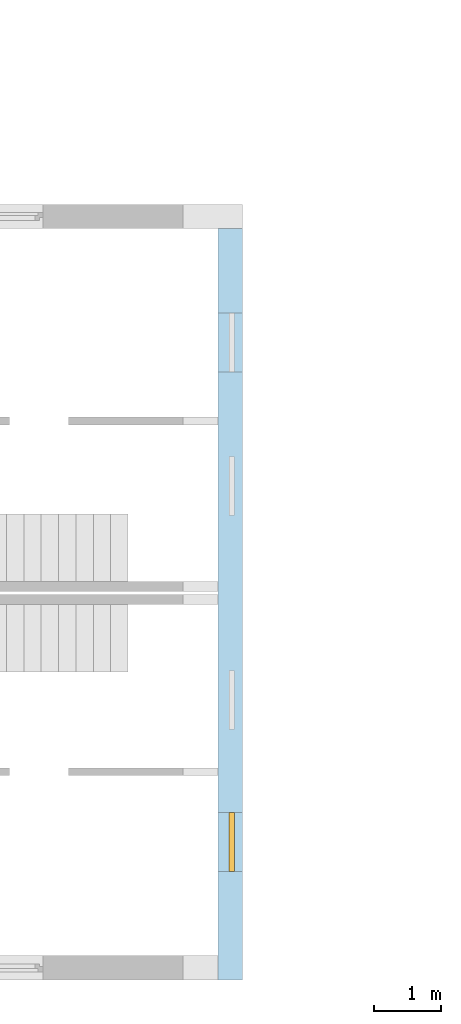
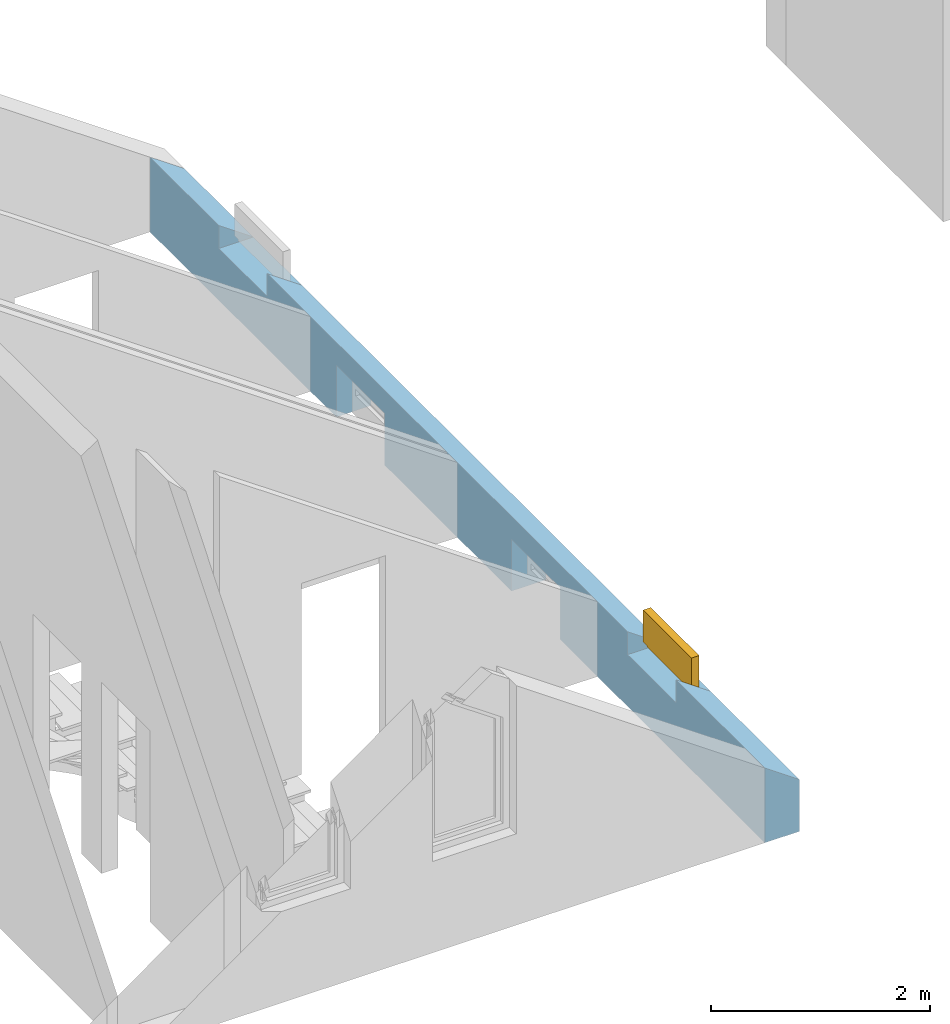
# One storey, part 9 of 23: 1 window, 4 openings, plus 1 element that does not belong to this part.
"""IFC2X3 building model written with IfcOpenShell, lengths in millimetres."""

from ifc_helpers import new_model, entity, si_unit, converted_unit, frame, frame_2d, origin, origin_with_axes, place, context, subcontext, project, spatial, rectangle, extrude, clip, halfspace, faceted_brep, material, layer, layer_set, layer_usage, type_object, element, fill, save


model = new_model("IFC2X3")

# Units and contexts
model_context = context("Model", 3, precision=1e-05, world=origin())
body_context = subcontext(model_context, "Body", "Model", "MODEL_VIEW")
ifc_project = project(units=[si_unit("LENGTHUNIT", "METRE", prefix="MILLI"), converted_unit("PLANEANGLEUNIT", "DEGREE", entity("IfcPlaneAngleMeasure", 0.0174532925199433), si_unit("PLANEANGLEUNIT", "RADIAN"), dimensions=[0, 0, 0, 0, 0, 0, 0]), si_unit("AREAUNIT", "SQUARE_METRE"), si_unit("VOLUMEUNIT", "CUBIC_METRE")], contexts=[model_context])

# Building, storey
building_placement = place(None, origin())
building = spatial("IfcBuilding", under=ifc_project, at=building_placement, Name="Gebäude", CompositionType="ELEMENT")
storey_placement = place(building_placement, frame((0.0, 0.0, 5580.0), z_axis=(0.0, 0.0, 1.0), x_axis=(1.0, 0.0, 0.0)))
storey = spatial("IfcBuildingStorey", under=building, at=storey_placement, Name="DG.- Grundriss", CompositionType="ELEMENT", Elevation=5580.0)

# Wall, openings, window
ifc_material_1 = material(Name="Poroton")
ifc_layer = layer(ifc_material_1, 365.0000000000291)
ifc_layer_set = layer_set([ifc_layer])
ifc_layer_usage = layer_usage(ifc_layer_set, "AXIS2", "POSITIVE", 0.0)
wall_placement = place(storey_placement, frame((142357.7928067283, 125274.8877321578, 0.0), z_axis=(0.0, 0.0, 1.0), x_axis=(0.0, 1.0, 0.0)))
wall = element("IfcWallStandardCase", 1, at=wall_placement, inside=storey, material=ifc_layer_usage, Name="<Unnamed Element>", context=body_context, shape_type="Clipping", body=[
    clip(extrude(rectangle(XDim=11250.00000031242, YDim=365.0000000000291, at=frame_2d((5625.000000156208, 182.5000000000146), x_axis=(1.0, 0.0))), origin_with_axes(), (0.0, 0.0, 1.0), 835.5757514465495), halfspace(frame((11250.00000031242, 365.0000000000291, 835.5757514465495), z_axis=(3.642746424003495e-16, 0.5735764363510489, -0.81915204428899), x_axis=(-1.0, 0.0, -4.850638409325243e-16)), True)),
])
opening_1_placement = place(wall_placement, frame((3750.0, 0.0, 0.0), z_axis=(0.0, 1.0, 0.0), x_axis=(0.0, 0.0, 1.0)))
element("IfcOpeningElement", 2, at=opening_1_placement, cuts=wall, Name="Fensteröffnung", ObjectType="Opening", context=body_context, shape_type="SweptSolid", body=[
    extrude(rectangle(XDim=579.99999999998, YDim=885.0, at=frame_2d((289.99999999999, 442.5), x_axis=(1.0, 0.0))), origin_with_axes(), (0.0, 0.0, 1.0), 365.0000000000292),
])
opening_2_placement = place(wall_placement, frame((6955.000000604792, 0.0, 0.0), z_axis=(0.0, 1.0, 0.0), x_axis=(0.0, 0.0, 1.0)))
element("IfcOpeningElement", 3, at=opening_2_placement, cuts=wall, Name="Fensteröffnung", ObjectType="Opening", context=body_context, shape_type="SweptSolid", body=[
    extrude(rectangle(XDim=579.9999999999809, YDim=885.0, at=frame_2d((289.9999999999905, 442.5), x_axis=(1.0, 0.0))), origin_with_axes(), (0.0, 0.0, 1.0), 365.0000000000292),
])
opening_3_placement = place(wall_placement, frame((9105.000000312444, 0.0, 579.9999999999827), z_axis=(0.0, 1.0, 0.0), x_axis=(0.0, 0.0, 1.0)))
element("IfcOpeningElement", 4, at=opening_3_placement, cuts=wall, Name="Fensteröffnung", ObjectType="Opening", context=body_context, shape_type="SweptSolid", body=[
    extrude(rectangle(XDim=440.0000000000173, YDim=885.0, at=frame_2d((220.0000000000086, 442.5), x_axis=(1.0, 0.0))), origin_with_axes(), (0.0, 0.0, 1.0), 365.0000000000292),
])
opening_4_placement = place(wall_placement, frame((1625.0, 0.0, 579.9999999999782), z_axis=(0.0, 1.0, 0.0), x_axis=(0.0, 0.0, 1.0)))
opening_4 = element("IfcOpeningElement", 5, at=opening_4_placement, cuts=wall, Name="Fensteröffnung", ObjectType="Opening", context=body_context, shape_type="SweptSolid", body=[
    extrude(rectangle(XDim=440.0000000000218, YDim=885.0, at=frame_2d((220.0000000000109, 442.5), x_axis=(1.0, 0.0))), origin_with_axes(), (0.0, 0.0, 1.0), 365.0000000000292),
])
ifc_material_2 = material()
window_style = type_object("IfcWindowStyle", Name="Fenster", ConstructionType="NOTDEFINED", OperationType="USERDEFINED", ParameterTakesPrecedence=False, Sizeable=False)
window_placement = place(opening_4_placement, frame((0.0, 0.0, 0.0), z_axis=(1.0, 0.0, 0.0), x_axis=(0.0, 1.0, 0.0)))
window = element("IfcWindow", 6, at=window_placement, inside=storey, type_object=window_style, material=ifc_material_2, Name="Fenster", OverallHeight=440.0000000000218, OverallWidth=885.0, context=body_context, shape_type="Brep", body=[
    faceted_brep([(4.898587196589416e-15, 200.0000000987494, 440.0000000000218), (4.898587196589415e-15, 200.0000000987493, 84.02490465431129), (70.0, 200.0000000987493, 84.02490465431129), (70.0, 200.0000000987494, 440.0000000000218), (0.0, 120.0000000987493, 84.02490465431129), (1.740327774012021e-30, 120.0000000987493, 440.0000000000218), (70.0, 120.0000000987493, 440.0000000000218), (70.0, 120.0000000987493, 84.02490465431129), (4.898587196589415e-15, 200.0000000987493, 84.02490465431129), (4.898587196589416e-15, 200.0000000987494, 440.0000000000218), (1.740327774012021e-30, 120.0000000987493, 440.0000000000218), (0.0, 120.0000000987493, 84.02490465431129), (70.0, 200.0000000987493, 84.02490465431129), (4.898587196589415e-15, 200.0000000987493, 84.02490465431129), (0.0, 120.0000000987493, 84.02490465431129), (70.0, 120.0000000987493, 84.02490465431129), (70.0, 200.0000000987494, 440.0000000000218), (70.0, 200.0000000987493, 84.02490465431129), (70.0, 120.0000000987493, 84.02490465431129), (70.0, 120.0000000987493, 440.0000000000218), (4.898587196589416e-15, 200.0000000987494, 440.0000000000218), (70.0, 200.0000000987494, 440.0000000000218), (70.0, 120.0000000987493, 440.0000000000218), (1.740327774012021e-30, 120.0000000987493, 440.0000000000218)], [[[0, 1, 2, 3]], [[4, 5, 6, 7]], [[8, 9, 10, 11]], [[12, 13, 14, 15]], [[16, 17, 18, 19]], [[20, 21, 22, 23]]], orient=[[False], [False], [False], [False], [False], [False]]),
    faceted_brep([(815.0000000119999, 200.0000000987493, 440.0000000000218), (815.0000000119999, 200.0000000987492, 84.02490465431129), (885.0000000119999, 200.0000000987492, 84.02490465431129), (885.0000000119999, 200.0000000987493, 440.0000000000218), (815.0000000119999, 120.0000000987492, 84.02490465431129), (815.0000000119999, 120.0000000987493, 440.0000000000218), (885.0000000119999, 120.0000000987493, 440.0000000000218), (885.0000000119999, 120.0000000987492, 84.02490465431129), (815.0000000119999, 200.0000000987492, 84.02490465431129), (815.0000000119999, 200.0000000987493, 440.0000000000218), (815.0000000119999, 120.0000000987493, 440.0000000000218), (815.0000000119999, 120.0000000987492, 84.02490465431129), (885.0000000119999, 200.0000000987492, 84.02490465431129), (815.0000000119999, 200.0000000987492, 84.02490465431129), (815.0000000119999, 120.0000000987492, 84.02490465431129), (885.0000000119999, 120.0000000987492, 84.02490465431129), (885.0000000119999, 200.0000000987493, 440.0000000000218), (885.0000000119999, 200.0000000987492, 84.02490465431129), (885.0000000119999, 120.0000000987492, 84.02490465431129), (885.0000000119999, 120.0000000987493, 440.0000000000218), (815.0000000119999, 200.0000000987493, 440.0000000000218), (885.0000000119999, 200.0000000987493, 440.0000000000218), (885.0000000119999, 120.0000000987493, 440.0000000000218), (815.0000000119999, 120.0000000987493, 440.0000000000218)], [[[0, 1, 2, 3]], [[4, 5, 6, 7]], [[8, 9, 10, 11]], [[12, 13, 14, 15]], [[16, 17, 18, 19]], [[20, 21, 22, 23]]], orient=[[False], [False], [False], [False], [False], [False]]),
    faceted_brep([(70.0, 200.0000000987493, 154.0249046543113), (70.0, 200.0000000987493, 84.02490465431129), (815.0000000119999, 200.0000000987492, 84.02490465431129), (815.0000000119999, 200.0000000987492, 154.0249046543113), (70.0, 120.0000000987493, 84.02490465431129), (70.0, 120.0000000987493, 154.0249046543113), (815.0000000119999, 120.0000000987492, 154.0249046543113), (815.0000000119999, 120.0000000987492, 84.02490465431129), (70.0, 200.0000000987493, 84.02490465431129), (70.0, 200.0000000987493, 154.0249046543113), (70.0, 120.0000000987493, 154.0249046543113), (70.0, 120.0000000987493, 84.02490465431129), (815.0000000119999, 200.0000000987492, 84.02490465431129), (70.0, 200.0000000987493, 84.02490465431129), (70.0, 120.0000000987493, 84.02490465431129), (815.0000000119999, 120.0000000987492, 84.02490465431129), (815.0000000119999, 200.0000000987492, 154.0249046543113), (815.0000000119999, 200.0000000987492, 84.02490465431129), (815.0000000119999, 120.0000000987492, 84.02490465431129), (815.0000000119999, 120.0000000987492, 154.0249046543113), (70.0, 200.0000000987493, 154.0249046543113), (815.0000000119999, 200.0000000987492, 154.0249046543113), (815.0000000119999, 120.0000000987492, 154.0249046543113), (70.0, 120.0000000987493, 154.0249046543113)], [[[0, 1, 2, 3]], [[4, 5, 6, 7]], [[8, 9, 10, 11]], [[12, 13, 14, 15]], [[16, 17, 18, 19]], [[20, 21, 22, 23]]], orient=[[False], [False], [False], [False], [False], [False]]),
    faceted_brep([(70.0, 200.0000000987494, 440.0000000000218), (70.0, 200.0000000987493, 70.00000000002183), (815.0000000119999, 200.0000000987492, 70.00000000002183), (815.0000000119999, 200.0000000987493, 440.0000000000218), (70.0, 120.0000000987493, 70.00000000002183), (70.0, 120.0000000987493, 440.0000000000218), (815.0000000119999, 120.0000000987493, 440.0000000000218), (815.0000000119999, 120.0000000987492, 70.00000000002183), (70.0, 200.0000000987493, 70.00000000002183), (70.0, 200.0000000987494, 440.0000000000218), (70.0, 120.0000000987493, 440.0000000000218), (70.0, 120.0000000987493, 70.00000000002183), (815.0000000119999, 200.0000000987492, 70.00000000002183), (70.0, 200.0000000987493, 70.00000000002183), (70.0, 120.0000000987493, 70.00000000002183), (815.0000000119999, 120.0000000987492, 70.00000000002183), (815.0000000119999, 200.0000000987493, 440.0000000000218), (815.0000000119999, 200.0000000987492, 70.00000000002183), (815.0000000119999, 120.0000000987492, 70.00000000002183), (815.0000000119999, 120.0000000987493, 440.0000000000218), (70.0, 200.0000000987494, 440.0000000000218), (815.0000000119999, 200.0000000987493, 440.0000000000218), (815.0000000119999, 120.0000000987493, 440.0000000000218), (70.0, 120.0000000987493, 440.0000000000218)], [[[0, 1, 2, 3]], [[4, 5, 6, 7]], [[8, 9, 10, 11]], [[12, 13, 14, 15]], [[16, 17, 18, 19]], [[20, 21, 22, 23]]], orient=[[False], [False], [False], [False], [False], [False]]),
])
fill(opening_4, window)

save(model, "model.ifc")
